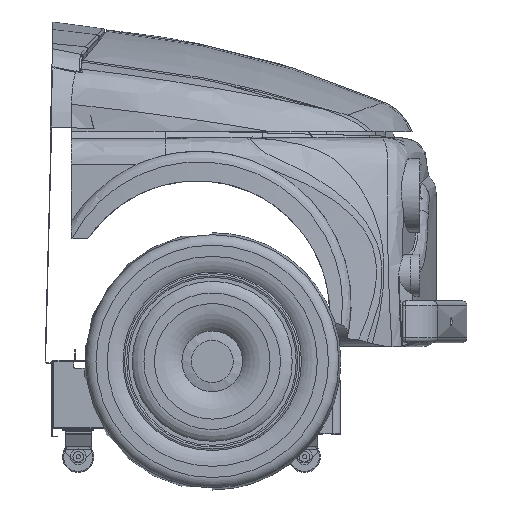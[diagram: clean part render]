
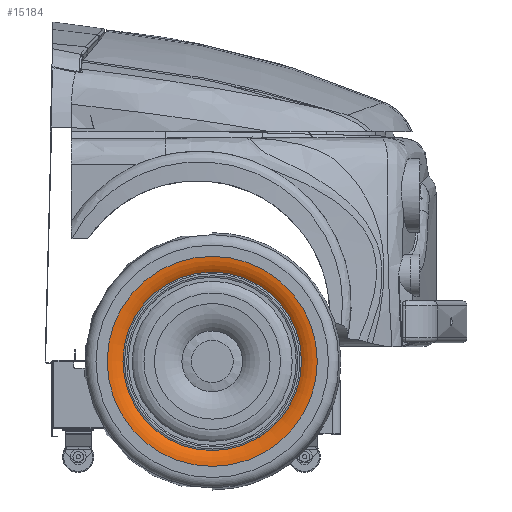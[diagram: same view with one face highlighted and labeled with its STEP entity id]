
A CAD part, left-side view. The second image highlights one B-rep face of the part: STEP entity #15184.
In plain terms, the highlighted toroidal (fillet/blend) face has major radius 200 mm and minor radius 50 mm.
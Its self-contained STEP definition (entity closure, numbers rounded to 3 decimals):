
#44=TOROIDAL_SURFACE('',#49332,200.,50.);
#5512=CIRCLE('',#49310,170.);
#5522=CIRCLE('',#49331,200.);
#7711=FACE_BOUND('',#19288,.T.);
#7712=FACE_BOUND('',#19289,.T.);
#15184=ADVANCED_FACE('',(#7711,#7712),#44,.T.);
#19288=EDGE_LOOP('',(#26730));
#19289=EDGE_LOOP('',(#26731));
#26730=ORIENTED_EDGE('',*,*,#43185,.F.);
#26731=ORIENTED_EDGE('',*,*,#43175,.F.);
#37246=VERTEX_POINT('',#144644);
#37256=VERTEX_POINT('',#144675);
#43175=EDGE_CURVE('',#37246,#37246,#5512,.T.);
#43185=EDGE_CURVE('',#37256,#37256,#5522,.T.);
#49310=AXIS2_PLACEMENT_3D('',#144643,#52972,#52973);
#49331=AXIS2_PLACEMENT_3D('',#144674,#53014,#53015);
#49332=AXIS2_PLACEMENT_3D('',#144676,#53016,#53017);
#52972=DIRECTION('',(-1.,0.,0.));
#52973=DIRECTION('',(0.,1.,0.));
#53014=DIRECTION('',(1.,0.,0.));
#53015=DIRECTION('',(0.,1.,0.));
#53016=DIRECTION('',(-1.,0.,0.));
#53017=DIRECTION('',(0.,0.,1.));
#144643=CARTESIAN_POINT('',(-349.702,744.929,-421.927));
#144644=CARTESIAN_POINT('',(-349.702,574.929,-421.927));
#144674=CARTESIAN_POINT('',(-359.702,744.929,-421.927));
#144675=CARTESIAN_POINT('',(-359.702,544.929,-421.927));
#144676=CARTESIAN_POINT('',(-309.702,744.929,-421.927));
